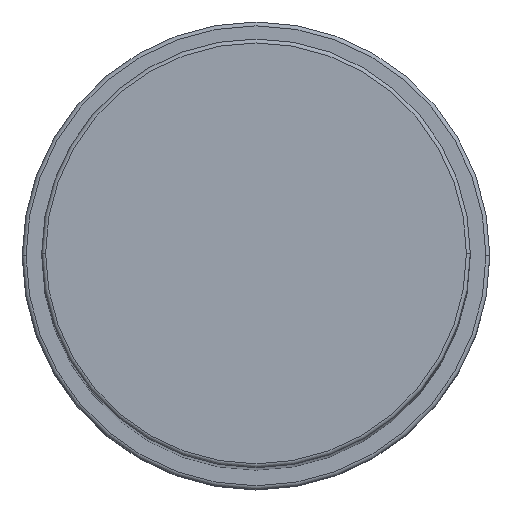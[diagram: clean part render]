
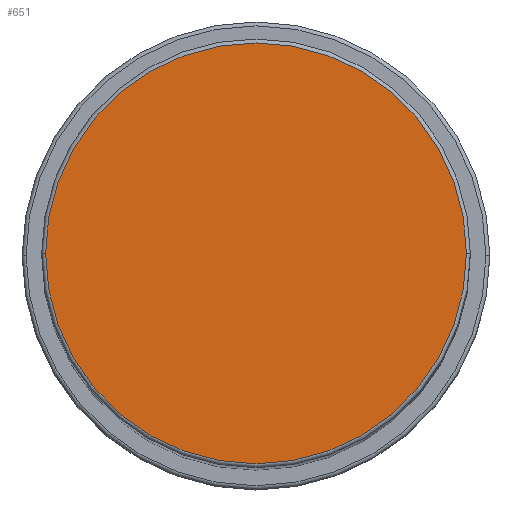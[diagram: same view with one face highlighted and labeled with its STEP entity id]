
A CAD part, top view. The second image highlights one B-rep face of the part: STEP entity #651.
In plain terms, the highlighted planar face has unit normal (0, 0, 1).
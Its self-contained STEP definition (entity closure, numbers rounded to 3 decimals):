
#78 = CARTESIAN_POINT ( 'NONE',  ( 27., 0., 193. ) ) ;
#80 = DIRECTION ( 'NONE',  ( 1., 0., 0. ) ) ;
#137 = DIRECTION ( 'NONE',  ( 0., 0., 1. ) ) ;
#154 = AXIS2_PLACEMENT_3D ( 'NONE', #597, #1334, #80 ) ;
#286 = EDGE_CURVE ( 'NONE', #1571, #1098, #752, .T. ) ;
#319 = PLANE ( 'NONE',  #154 ) ;
#449 = DIRECTION ( 'NONE',  ( 0., 0., 1. ) ) ;
#480 = ORIENTED_EDGE ( 'NONE', *, *, #825, .T. ) ;
#590 = CARTESIAN_POINT ( 'NONE',  ( 0., 0., 193. ) ) ;
#597 = CARTESIAN_POINT ( 'NONE',  ( 0., 0., 193. ) ) ;
#645 = AXIS2_PLACEMENT_3D ( 'NONE', #590, #449, #1330 ) ;
#651 = ADVANCED_FACE ( 'NONE', ( #1235 ), #319, .T. ) ;
#752 = CIRCLE ( 'NONE', #645, 27. ) ;
#825 = EDGE_CURVE ( 'NONE', #1098, #1571, #1591, .T. ) ;
#832 = ORIENTED_EDGE ( 'NONE', *, *, #286, .T. ) ;
#871 = CARTESIAN_POINT ( 'NONE',  ( -27., 0., 193. ) ) ;
#892 = AXIS2_PLACEMENT_3D ( 'NONE', #919, #137, #1541 ) ;
#919 = CARTESIAN_POINT ( 'NONE',  ( 0., 0., 193. ) ) ;
#1003 = EDGE_LOOP ( 'NONE', ( #832, #480 ) ) ;
#1098 = VERTEX_POINT ( 'NONE', #871 ) ;
#1235 = FACE_OUTER_BOUND ( 'NONE', #1003, .T. ) ;
#1330 = DIRECTION ( 'NONE',  ( 1., 0., 0. ) ) ;
#1334 = DIRECTION ( 'NONE',  ( 0., 0., 1. ) ) ;
#1541 = DIRECTION ( 'NONE',  ( 1., 0., 0. ) ) ;
#1571 = VERTEX_POINT ( 'NONE', #78 ) ;
#1591 = CIRCLE ( 'NONE', #892, 27. ) ;
